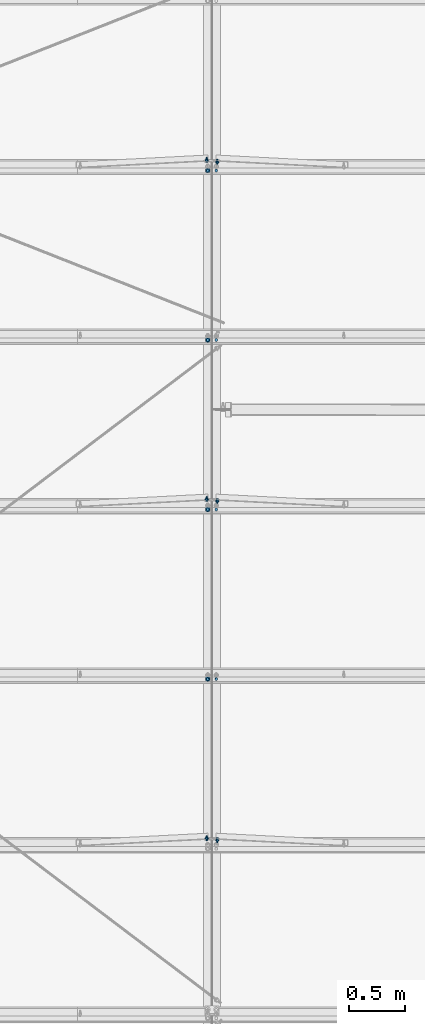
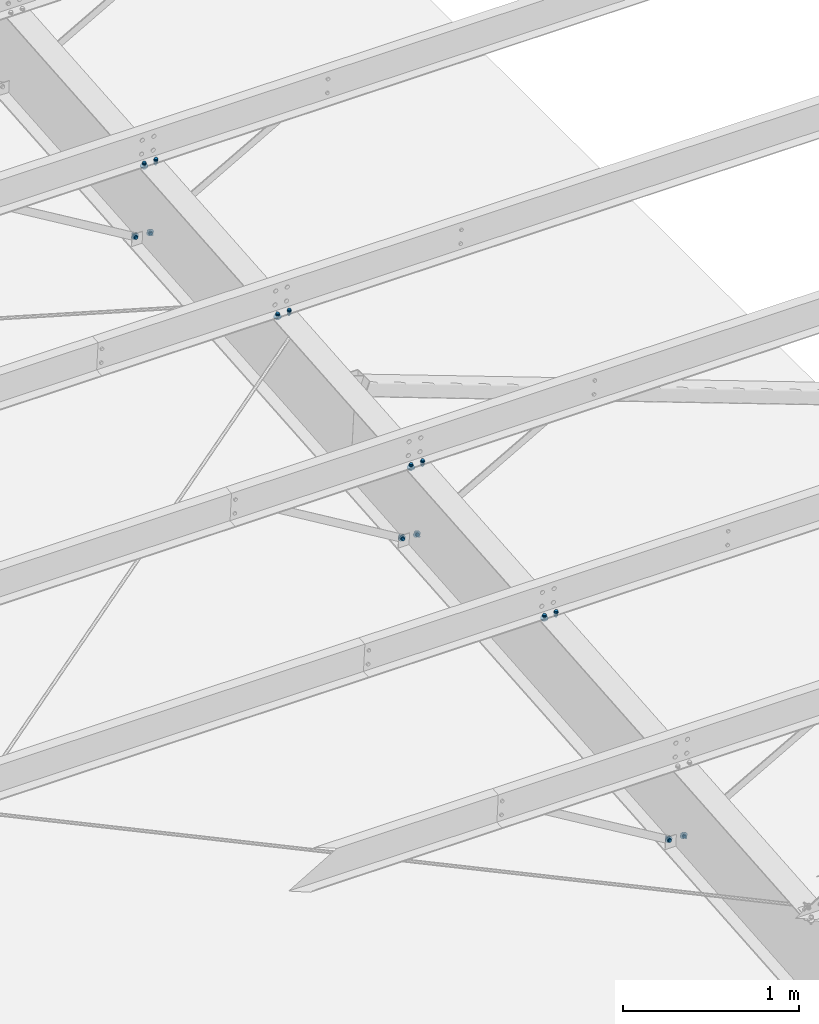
# One storey, part 170 of 185: 20 mechanical fasteners, 11 elements without a shape of their own.
"""IFC2X3 building model written with IfcOpenShell, lengths in millimetres."""

import ifcopenshell
import ifcopenshell.guid

model = None  # the IFC model being written
_history = None  # IfcOwnerHistory: only IFC2X3 demands one
_inside = {}  # id of a spatial element -> (the spatial element, [elements in it])
_under = {}  # id of a project, library or spatial element -> (it, [spatial elements below it])
_declared = {}  # id of a project -> (the project, [libraries it declares])
_typed = {}  # id of a type object -> (the type object, [elements of that type])
_made_of = {}  # id of a material, layer set ... -> (it, [elements and type objects made of it])


def new_model(schema):
    """Start an empty IFC model of exactly this schema.

    Asked for "IFC4X3", IfcOpenShell would pick the latest addendum, in which some entities
    have other attributes; the version numbers below select the first issue.
    IFC2X3 requires an IfcOwnerHistory on every rooted entity: one is made here for all.
    """
    global model, _history
    if schema == "IFC4X3":
        model = ifcopenshell.file(schema_version=(4, 3, 0, 0))
    else:
        model = ifcopenshell.file(schema=schema)
    _inside.clear()
    _under.clear()
    _declared.clear()
    _typed.clear()
    _made_of.clear()
    _history = None
    if model.schema == "IFC2X3":
        org = make("IfcOrganization", Name="unknown")
        user = make(
            "IfcPersonAndOrganization",
            ThePerson=make("IfcPerson", FamilyName="unknown"),
            TheOrganization=org,
        )
        app = make(
            "IfcApplication",
            ApplicationDeveloper=org,
            Version="unknown",
            ApplicationFullName="unknown",
            ApplicationIdentifier="unknown",
        )
        _history = make(
            "IfcOwnerHistory",
            OwningUser=user,
            OwningApplication=app,
            ChangeAction="ADDED",
            CreationDate=0,
        )
    return model


def make(cls, **values):
    """One entity of the class cls with the attributes given. An attribute that is None is left unset."""
    return model.create_entity(
        cls, **{name: value for name, value in values.items() if value is not None}
    )


def rooted(cls, **values):
    """An entity with a GlobalId (a new one), such as an element, a storey or a relation."""
    return make(cls, GlobalId=ifcopenshell.guid.new(), OwnerHistory=_history, **values)


def si_unit(unit_type, name, prefix=None):
    """IfcSIUnit, for example si_unit("LENGTHUNIT", "METRE", prefix="MILLI")."""
    return make("IfcSIUnit", UnitType=unit_type, Prefix=prefix, Name=name)


def assignment(units):
    """IfcUnitAssignment: the units of a project."""
    return None if units is None else make("IfcUnitAssignment", Units=units)


def point(xyz):
    """IfcCartesianPoint."""
    return None if xyz is None else make("IfcCartesianPoint", Coordinates=xyz)


def direction(xyz):
    """IfcDirection."""
    return None if xyz is None else make("IfcDirection", DirectionRatios=xyz)


def frame(location, z_axis=None, x_axis=None):
    """IfcAxis2Placement3D, a coordinate frame: its origin and axes. An axis left out is left unset."""
    return make(
        "IfcAxis2Placement3D",
        Location=point(location),
        Axis=direction(z_axis),
        RefDirection=direction(x_axis),
    )


def frame_2d(location, x_axis=None):
    """IfcAxis2Placement2D, a coordinate frame in the plane: its origin and x axis."""
    return make(
        "IfcAxis2Placement2D", Location=point(location), RefDirection=direction(x_axis)
    )


def origin_with_axes():
    """The frame at (0, 0, 0) with the z axis (0, 0, 1) and the x axis (1, 0, 0) written out."""
    return frame((0.0, 0.0, 0.0), z_axis=(0.0, 0.0, 1.0), x_axis=(1.0, 0.0, 0.0))


def origin_2d_with_axis():
    """The frame at (0, 0) in the plane with the x axis (1, 0) written out."""
    return frame_2d((0.0, 0.0), x_axis=(1.0, 0.0))


def place(relative_to, where):
    """IfcLocalPlacement: puts the frame where relative to a parent placement (None: the world)."""
    return make(
        "IfcLocalPlacement", PlacementRelTo=relative_to, RelativePlacement=where
    )


def context(
    kind, dimensions, precision=None, world=None, true_north=None, identifier=None
):
    """IfcGeometricRepresentationContext, for example the 3D "Model" context."""
    return make(
        "IfcGeometricRepresentationContext",
        ContextIdentifier=identifier,
        ContextType=kind,
        CoordinateSpaceDimension=dimensions,
        Precision=precision,
        WorldCoordinateSystem=world,
        TrueNorth=true_north,
    )


def subcontext(parent, identifier, kind, view, scale=None):
    """IfcGeometricRepresentationSubContext, for example "Body" below "Model"."""
    return make(
        "IfcGeometricRepresentationSubContext",
        ContextIdentifier=identifier,
        ContextType=kind,
        ParentContext=parent,
        TargetScale=scale,
        TargetView=view,
    )


def project(units=None, contexts=None):
    """IfcProject with its units and contexts."""
    return rooted(
        "IfcProject",
        Name="project",
        RepresentationContexts=contexts,
        UnitsInContext=assignment(units),
    )


def spatial(cls, under=None, at=None, **own):
    """A site, building, storey or space (cls), placed at a placement, below another one or the project."""
    s = rooted(cls, ObjectPlacement=at, **own)
    if under is not None:
        _under.setdefault(under.id(), (under, []))[1].append(s)
    return s


def polyline(points):
    """IfcPolyline through the points."""
    return make("IfcPolyline", Points=[point(p) for p in points])


def profile(cls, at=None, kind="AREA", **sizes):
    """A parametric profile (cls). Its sizes go by their IFC names, for example OverallWidth=200.0."""
    return make(cls, ProfileType=kind, Position=at, **sizes)


def circle(**sizes):
    """IfcCircleProfileDef."""
    return profile("IfcCircleProfileDef", **sizes)


def outline(outer, holes=None, kind="AREA"):
    """IfcArbitraryClosedProfileDef: a profile drawn as a closed curve; with holes, ...WithVoids."""
    if holes is None:
        return make("IfcArbitraryClosedProfileDef", ProfileType=kind, OuterCurve=outer)
    return make(
        "IfcArbitraryProfileDefWithVoids",
        ProfileType=kind,
        OuterCurve=outer,
        InnerCurves=holes,
    )


def extrude(swept, where, along, depth):
    """IfcExtrudedAreaSolid: the profile swept, set in the frame where, extruded along a direction by depth."""
    return make(
        "IfcExtrudedAreaSolid",
        SweptArea=swept,
        Position=where,
        ExtrudedDirection=direction(along),
        Depth=depth,
    )


def shape(context_of_items, identifier, shape_type, items):
    """IfcShapeRepresentation: the items that make up one representation, for example the "Body"."""
    return make(
        "IfcShapeRepresentation",
        ContextOfItems=context_of_items,
        RepresentationIdentifier=identifier,
        RepresentationType=shape_type,
        Items=items,
    )


def source(mapping_origin, context_of_items, identifier, shape_type, items):
    """IfcRepresentationMap: a shape defined once, which mapped items show again and again."""
    return make(
        "IfcRepresentationMap",
        MappingOrigin=mapping_origin,
        MappedRepresentation=shape(context_of_items, identifier, shape_type, items),
    )


def transform(
    local_origin,
    x_axis=None,
    y_axis=None,
    z_axis=None,
    scale=None,
    scale2=None,
    scale3=None,
    uniform=True,
):
    """IfcCartesianTransformationOperator3D, or its non-uniform kind. x_axis, y_axis, z_axis: its Axis1, 2, 3."""
    if uniform:
        return make(
            "IfcCartesianTransformationOperator3D",
            Axis1=direction(x_axis),
            Axis2=direction(y_axis),
            LocalOrigin=point(local_origin),
            Scale=scale,
            Axis3=direction(z_axis),
        )
    return make(
        "IfcCartesianTransformationOperator3DnonUniform",
        Axis1=direction(x_axis),
        Axis2=direction(y_axis),
        LocalOrigin=point(local_origin),
        Scale=scale,
        Axis3=direction(z_axis),
        Scale2=scale2,
        Scale3=scale3,
    )


def mapped(mapping_source, mapping_target):
    """IfcMappedItem: shows the shape of a source again, moved by a transform."""
    return make(
        "IfcMappedItem", MappingSource=mapping_source, MappingTarget=mapping_target
    )


def material(Name=None, Category=None):
    """IfcMaterial."""
    return make("IfcMaterial", Name=Name, Category=Category)


def made_of(thing, what):
    """Note that an element or type object is made of a material, layer set ...; save() writes the relation."""
    if what is not None:
        _made_of.setdefault(what.id(), (what, []))[1].append(thing)
    return thing


def type_object(cls, material=None, **own):
    """A type object (cls), such as IfcWallType, which elements share."""
    return made_of(rooted(cls, **own), material)


def element(
    cls,
    number,
    at=None,
    inside=None,
    cuts=None,
    type_object=None,
    material=None,
    context=None,
    identifier="Body",
    shape_type=None,
    held_by="IfcProductDefinitionShape",
    body=None,
    shapes=None,
    **own,
):
    """One element of the class cls, such as IfcWall. Its Tag is "e" and its number.

    at: its placement. inside: the storey or other place that contains it. cuts: it is an
    opening in that element (IfcRelVoidsElement). A single representation is given by context,
    identifier, shape_type and body (its items); several are given by shapes. held_by: the class
    of the entity that holds the representations. save() writes the other relations.
    """
    e = rooted(cls, Tag="e%d" % number, ObjectPlacement=at, **own)
    if body is not None:
        shapes = [shape(context, identifier, shape_type, body)]
    if shapes is not None:
        e.Representation = make(held_by, Representations=shapes)
    if inside is not None:
        _inside.setdefault(inside.id(), (inside, []))[1].append(e)
    if cuts is not None:
        rooted(
            "IfcRelVoidsElement", RelatingBuildingElement=cuts, RelatedOpeningElement=e
        )
    if type_object is not None:
        _typed.setdefault(type_object.id(), (type_object, []))[1].append(e)
    return made_of(e, material)


def aggregate(whole, parts):
    """IfcRelAggregates: a whole, such as a stair, and the parts it consists of."""
    return rooted("IfcRelAggregates", RelatingObject=whole, RelatedObjects=parts)


def save(model, path):
    """Write the relations noted so far, then the file.

    IfcRelAggregates (storeys below a building ...), IfcRelContainedInSpatialStructure (elements
    in a storey), IfcRelDefinesByType, IfcRelAssociatesMaterial and IfcRelDeclares: one each for
    every whole, place, type object, material and project.
    """
    for whole, parts in _under.values():
        aggregate(whole, parts)
    for where, things in _inside.values():
        rooted(
            "IfcRelContainedInSpatialStructure",
            RelatedElements=things,
            RelatingStructure=where,
        )
    for kind, things in _typed.values():
        rooted("IfcRelDefinesByType", RelatedObjects=things, RelatingType=kind)
    for what, things in _made_of.values():
        rooted("IfcRelAssociatesMaterial", RelatedObjects=things, RelatingMaterial=what)
    for by, libraries in _declared.values():
        rooted("IfcRelDeclares", RelatingContext=by, RelatedDefinitions=libraries)
    model.write(path)


model = new_model("IFC2X3")

# Units and contexts
model_context = context("Model", 3, precision=1e-05, world=origin_with_axes())
body_context = subcontext(model_context, "Body", "Model", "MODEL_VIEW")
ifc_project = project(units=[si_unit("LENGTHUNIT", "METRE", prefix="MILLI"), si_unit("AREAUNIT", "SQUARE_METRE"), si_unit("VOLUMEUNIT", "CUBIC_METRE"), si_unit("MASSUNIT", "GRAM", prefix="KILO"), si_unit("TIMEUNIT", "SECOND"), si_unit("PLANEANGLEUNIT", "RADIAN"), si_unit("SOLIDANGLEUNIT", "STERADIAN"), si_unit("THERMODYNAMICTEMPERATUREUNIT", "DEGREE_CELSIUS"), si_unit("LUMINOUSINTENSITYUNIT", "LUMEN")], contexts=[model_context])

# Site, building, storey
site_placement = place(None, origin_with_axes())
site = spatial("IfcSite", under=ifc_project, at=site_placement, Name="Undefined", CompositionType="ELEMENT")
building_placement = place(site_placement, origin_with_axes())
building = spatial("IfcBuilding", under=site, at=building_placement, Name="Undefined", CompositionType="ELEMENT")
storey_placement = place(building_placement, origin_with_axes())
storey = spatial("IfcBuildingStorey", under=building, at=storey_placement, Name="Undefined", CompositionType="ELEMENT", Elevation=0.0)

# Assembly, mechanical fastener
assembly_1_placement = place(storey_placement, origin_with_axes())
assembly_1 = element("IfcElementAssembly", 1, at=assembly_1_placement, inside=storey, Name="Steel Assembly", AssemblyPlace="NOTDEFINED", PredefinedType="RIGID_FRAME")
ifc_material_1 = material(Name="Undefined")
discrete_accessory_type = type_object("IfcDiscreteAccessoryType", Name="Bolt assembly")
shared_shape_1 = source(origin_with_axes(), body_context, "Body", "SweptSolid", [
    extrude(circle(Radius=7.14374971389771, at=origin_2d_with_axis()), frame((0.0, -1.59000001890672, 0.0), z_axis=(0.0, 1.0, 0.0), x_axis=(1.0, 0.0, 0.0)), (0.0, 0.0, 1.0), 1.7),
    extrude(outline(polyline([(10.9985221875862, 0.0), (5.4992610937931, 9.52499961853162), (-5.4992610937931, 9.52499961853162), (-10.9985221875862, 0.0), (-5.4992610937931, -9.52499961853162), (5.4992610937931, -9.52499961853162), (10.9985221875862, 0.0)])), frame((0.0, -15.0837496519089, 0.0), z_axis=(0.0, 1.0, 0.0), x_axis=(1.0, 0.0, 0.0)), (0.0, 0.0, 1.0), 9.5),
    extrude(circle(Radius=6.34999990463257, at=origin_2d_with_axis()), frame((0.0, -5.5587500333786, 0.0), z_axis=(0.0, 1.0, 0.0), x_axis=(1.0, 0.0, 0.0)), (0.0, 0.0, 1.0), 38.1),
    extrude(circle(Radius=13.4937496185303, at=origin_2d_with_axis()), frame((0.0, -5.5587500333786, 0.0), z_axis=(0.0, 1.0, 0.0), x_axis=(1.0, 0.0, 0.0)), (0.0, 0.0, 1.0), 4.0),
    extrude(circle(Radius=22.2250003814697, at=origin_2d_with_axis()), frame((0.0, 0.0, 0.0), z_axis=(0.0, 1.0, 0.0), x_axis=(1.0, 0.0, 0.0)), (0.0, 0.0, 1.0), 7.9),
    extrude(outline(polyline([(12.8316099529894, 0.0), (6.4158049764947, 11.1125001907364), (-6.4158049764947, 11.1125001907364), (-12.8316099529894, 0.0), (-6.4158049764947, -11.1125001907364), (6.4158049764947, -11.1125001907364), (12.8316099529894, 0.0)])), frame((0.0, 7.93750000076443, 0.0), z_axis=(0.0, 1.0, 0.0), x_axis=(1.0, 0.0, 0.0)), (0.0, 0.0, 1.0), 12.3),
])
mechanical_fastener_1_placement = place(assembly_1_placement, frame((37766.0060520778, 14242.6233903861, 6520.35628002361), z_axis=(0.530152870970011, 0.0704144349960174, -0.844973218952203), x_axis=(0.847902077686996, -0.044026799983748, 0.528321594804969)))
mechanical_fastener_1 = element("IfcMechanicalFastener", 2, at=mechanical_fastener_1_placement, type_object=discrete_accessory_type, material=ifc_material_1, Name="Bolt assembly", NominalDiameter=12.6999998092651, NominalLength=38.0999984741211, context=body_context, shape_type="MappedRepresentation", body=[
    mapped(shared_shape_1, transform((0.0, 0.0, 0.0))),
])
aggregate(assembly_1, [mechanical_fastener_1])

assembly_2_placement = place(storey_placement, origin_with_axes())
assembly_2 = element("IfcElementAssembly", 3, at=assembly_2_placement, inside=storey, Name="Steel Assembly", AssemblyPlace="NOTDEFINED", PredefinedType="RIGID_FRAME")
mechanical_fastener_2_placement = place(assembly_2_placement, frame((37766.006052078, 11205.1519192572, 6267.23365743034), z_axis=(0.530152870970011, 0.0704144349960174, -0.844973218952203), x_axis=(0.847902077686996, -0.044026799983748, 0.528321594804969)))
mechanical_fastener_2 = element("IfcMechanicalFastener", 4, at=mechanical_fastener_2_placement, type_object=discrete_accessory_type, material=ifc_material_1, Name="Bolt assembly", NominalDiameter=12.6999998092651, NominalLength=38.0999984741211, context=body_context, shape_type="MappedRepresentation", body=[
    mapped(shared_shape_1, transform((0.0, 0.0, 0.0))),
])
aggregate(assembly_2, [mechanical_fastener_2])

assembly_3_placement = place(storey_placement, origin_with_axes())
assembly_3 = element("IfcElementAssembly", 5, at=assembly_3_placement, inside=storey, Name="Steel Assembly", AssemblyPlace="NOTDEFINED", PredefinedType="RIGID_FRAME")
mechanical_fastener_3_placement = place(assembly_3_placement, frame((37766.0060520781, 8167.68044812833, 6014.11103483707), z_axis=(0.530152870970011, 0.0704144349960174, -0.844973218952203), x_axis=(0.847902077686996, -0.044026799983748, 0.528321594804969)))
mechanical_fastener_3 = element("IfcMechanicalFastener", 6, at=mechanical_fastener_3_placement, type_object=discrete_accessory_type, material=ifc_material_1, Name="Bolt assembly", NominalDiameter=12.6999998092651, NominalLength=38.0999984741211, context=body_context, shape_type="MappedRepresentation", body=[
    mapped(shared_shape_1, transform((0.0, 0.0, 0.0))),
])
aggregate(assembly_3, [mechanical_fastener_3])

assembly_4_placement = place(storey_placement, origin_with_axes())
assembly_4 = element("IfcElementAssembly", 7, at=assembly_4_placement, inside=storey, Name="Steel Assembly", AssemblyPlace="NOTDEFINED", PredefinedType="RIGID_FRAME")
shared_shape_2 = source(origin_with_axes(), body_context, "Body", "SweptSolid", [
    extrude(circle(Radius=7.14374971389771, at=origin_2d_with_axis()), frame((0.0, 0.0, 0.0), z_axis=(0.0, 1.0, 0.0), x_axis=(1.0, 0.0, 0.0)), (0.0, 0.0, 1.0), 1.7),
    extrude(outline(polyline([(10.9985221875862, 0.0), (5.4992610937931, 9.52499961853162), (-5.4992610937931, 9.52499961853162), (-10.9985221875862, 0.0), (-5.4992610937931, -9.52499961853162), (5.4992610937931, -9.52499961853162), (10.9985221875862, 0.0)])), frame((0.0, -13.4937496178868, 0.0), z_axis=(0.0, 1.0, 0.0), x_axis=(1.0, 0.0, 0.0)), (0.0, 0.0, 1.0), 9.5),
    extrude(circle(Radius=6.34999990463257, at=origin_2d_with_axis()), frame((0.0, -3.96874999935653, 0.0), z_axis=(0.0, 1.0, 0.0), x_axis=(1.0, 0.0, 0.0)), (0.0, 0.0, 1.0), 38.1),
    extrude(circle(Radius=13.4937496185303, at=origin_2d_with_axis()), frame((0.0, -3.96874999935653, 0.0), z_axis=(0.0, 1.0, 0.0), x_axis=(1.0, 0.0, 0.0)), (0.0, 0.0, 1.0), 4.0),
    extrude(circle(Radius=22.2250003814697, at=origin_2d_with_axis()), frame((0.0, 1.5900000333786, 0.0), z_axis=(0.0, 1.0, 0.0), x_axis=(1.0, 0.0, 0.0)), (0.0, 0.0, 1.0), 7.9),
    extrude(outline(polyline([(12.8316099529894, 0.0), (6.4158049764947, 11.1125001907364), (-6.4158049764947, 11.1125001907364), (-12.8316099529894, 0.0), (-6.4158049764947, -11.1125001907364), (6.4158049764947, -11.1125001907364), (12.8316099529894, 0.0)])), frame((0.0, 9.5275000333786, 0.0), z_axis=(0.0, 1.0, 0.0), x_axis=(1.0, 0.0, 0.0)), (0.0, 0.0, 1.0), 12.3),
])
mechanical_fastener_4_placement = place(assembly_4_placement, frame((37671.9939479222, 14242.6233903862, 6520.35628002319), z_axis=(-0.530152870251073, 0.070414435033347, -0.844973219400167), x_axis=(-0.847902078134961, -0.0440268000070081, 0.528321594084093)))
mechanical_fastener_4 = element("IfcMechanicalFastener", 8, at=mechanical_fastener_4_placement, type_object=discrete_accessory_type, material=ifc_material_1, Name="Bolt assembly", NominalDiameter=12.6999998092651, NominalLength=38.0999984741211, context=body_context, shape_type="MappedRepresentation", body=[
    mapped(shared_shape_2, transform((0.0, 0.0, 0.0))),
])
aggregate(assembly_4, [mechanical_fastener_4])

assembly_5_placement = place(storey_placement, origin_with_axes())
assembly_5 = element("IfcElementAssembly", 9, at=assembly_5_placement, inside=storey, Name="Steel Assembly", AssemblyPlace="NOTDEFINED", PredefinedType="RIGID_FRAME")
mechanical_fastener_5_placement = place(assembly_5_placement, frame((37671.993947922, 11205.1519192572, 6267.23365742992), z_axis=(-0.530152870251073, 0.070414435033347, -0.844973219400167), x_axis=(-0.847902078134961, -0.0440268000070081, 0.528321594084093)))
mechanical_fastener_5 = element("IfcMechanicalFastener", 10, at=mechanical_fastener_5_placement, type_object=discrete_accessory_type, material=ifc_material_1, Name="Bolt assembly", NominalDiameter=12.6999998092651, NominalLength=38.0999984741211, context=body_context, shape_type="MappedRepresentation", body=[
    mapped(shared_shape_2, transform((0.0, 0.0, 0.0))),
])
aggregate(assembly_5, [mechanical_fastener_5])

assembly_6_placement = place(storey_placement, origin_with_axes())
assembly_6 = element("IfcElementAssembly", 11, at=assembly_6_placement, inside=storey, Name="Steel Assembly", AssemblyPlace="NOTDEFINED", PredefinedType="RIGID_FRAME")
mechanical_fastener_6_placement = place(assembly_6_placement, frame((37671.9939479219, 8167.68044812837, 6014.11103483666), z_axis=(-0.530152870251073, 0.070414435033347, -0.844973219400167), x_axis=(-0.847902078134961, -0.0440268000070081, 0.528321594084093)))
mechanical_fastener_6 = element("IfcMechanicalFastener", 12, at=mechanical_fastener_6_placement, type_object=discrete_accessory_type, material=ifc_material_1, Name="Bolt assembly", NominalDiameter=12.6999998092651, NominalLength=38.0999984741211, context=body_context, shape_type="MappedRepresentation", body=[
    mapped(shared_shape_2, transform((0.0, 0.0, 0.0))),
])
aggregate(assembly_6, [mechanical_fastener_6])

# Assembly, mechanical fasteners
assembly_7_placement = place(storey_placement, origin_with_axes())
assembly_7 = element("IfcElementAssembly", 13, at=assembly_7_placement, inside=storey, Name="Steel Assembly", AssemblyPlace="NOTDEFINED", PredefinedType="RIGID_FRAME")
ifc_material_2 = material(Name="7990")
shared_shape_3 = source(origin_with_axes(), body_context, "Body", "SweptSolid", [
    extrude(circle(Radius=7.14374971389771, at=origin_2d_with_axis()), frame((0.0, -3.41600000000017, 0.0), z_axis=(0.0, 1.0, 0.0), x_axis=(1.0, 0.0, 0.0)), (0.0, 0.0, 1.0), 3.5),
    extrude(circle(Radius=11.4299998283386, at=origin_2d_with_axis()), frame((0.0, 0.0, 0.0), z_axis=(0.0, 1.0, 0.0), x_axis=(1.0, 0.0, 0.0)), (0.0, 0.0, 1.0), 4.2),
    extrude(outline(polyline([(12.171698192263, 0.0), (6.08584909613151, 10.5409998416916), (-6.08584909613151, 10.5409998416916), (-12.171698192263, 0.0), (-6.08584909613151, -10.5409998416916), (6.08584909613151, -10.5409998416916), (12.171698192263, 0.0)])), frame((0.0, 4.1909999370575, 0.0), z_axis=(0.0, 1.0, 0.0), x_axis=(1.0, 0.0, 0.0)), (0.0, 0.0, 1.0), 8.4),
])
mechanical_fastener_7_placement = place(assembly_7_placement, frame((37672.84185, 14242.6674171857, 6519.82795842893), z_axis=(0.921635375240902, 0.0322263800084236, -0.386716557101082), x_axis=(-0.388056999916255, 0.0765376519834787, -0.9184518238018)))
mechanical_fastener_7 = element("IfcMechanicalFastener", 14, at=mechanical_fastener_7_placement, type_object=discrete_accessory_type, material=ifc_material_2, Name="Bolt assembly", NominalDiameter=12.6999998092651, NominalLength=38.0999984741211, context=body_context, shape_type="MappedRepresentation", body=[
    mapped(shared_shape_3, transform((0.0, 0.0, 0.0))),
])
mechanical_fastener_8_placement = place(assembly_7_placement, frame((37672.84185, 11205.1959460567, 6266.70533583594), z_axis=(0.921635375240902, 0.0322263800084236, -0.386716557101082), x_axis=(-0.388056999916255, 0.0765376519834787, -0.9184518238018)))
mechanical_fastener_8 = element("IfcMechanicalFastener", 15, at=mechanical_fastener_8_placement, type_object=discrete_accessory_type, material=ifc_material_2, Name="Bolt assembly", NominalDiameter=12.6999998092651, NominalLength=38.0999984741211, context=body_context, shape_type="MappedRepresentation", body=[
    mapped(shared_shape_3, transform((0.0, 0.0, 0.0))),
])
mechanical_fastener_9_placement = place(assembly_7_placement, frame((37672.84185, 8167.72447492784, 6013.58271324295), z_axis=(0.921635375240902, 0.0322263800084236, -0.386716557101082), x_axis=(-0.388056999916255, 0.0765376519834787, -0.9184518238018)))
mechanical_fastener_9 = element("IfcMechanicalFastener", 16, at=mechanical_fastener_9_placement, type_object=discrete_accessory_type, material=ifc_material_2, Name="Bolt assembly", NominalDiameter=12.6999998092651, NominalLength=38.0999984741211, context=body_context, shape_type="MappedRepresentation", body=[
    mapped(shared_shape_3, transform((0.0, 0.0, 0.0))),
])
shared_shape_4 = source(origin_with_axes(), body_context, "Body", "SweptSolid", [
    extrude(circle(Radius=7.14374971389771, at=origin_2d_with_axis()), frame((0.0, 0.0, 0.0), z_axis=(0.0, 1.0, 0.0), x_axis=(1.0, 0.0, 0.0)), (0.0, 0.0, 1.0), 3.5),
    extrude(circle(Radius=11.4299998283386, at=origin_2d_with_axis()), frame((0.0, 3.41600000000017, 0.0), z_axis=(0.0, 1.0, 0.0), x_axis=(1.0, 0.0, 0.0)), (0.0, 0.0, 1.0), 4.2),
    extrude(outline(polyline([(12.171698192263, 0.0), (6.08584909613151, 10.5409998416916), (-6.08584909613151, 10.5409998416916), (-12.171698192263, 0.0), (-6.08584909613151, -10.5409998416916), (6.08584909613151, -10.5409998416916), (12.171698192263, 0.0)])), frame((0.0, 7.60699993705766, 0.0), z_axis=(0.0, 1.0, 0.0), x_axis=(1.0, 0.0, 0.0)), (0.0, 0.0, 1.0), 8.4),
])
mechanical_fastener_10_placement = place(assembly_7_placement, frame((37765.15815, 14242.6674171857, 6519.82795842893), z_axis=(-0.921635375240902, 0.0322263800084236, -0.386716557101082), x_axis=(0.388056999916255, 0.0765376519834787, -0.9184518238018)))
mechanical_fastener_10 = element("IfcMechanicalFastener", 17, at=mechanical_fastener_10_placement, type_object=discrete_accessory_type, material=ifc_material_2, Name="Bolt assembly", NominalDiameter=12.6999998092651, NominalLength=38.0999984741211, context=body_context, shape_type="MappedRepresentation", body=[
    mapped(shared_shape_4, transform((0.0, 0.0, 0.0))),
])
mechanical_fastener_11_placement = place(assembly_7_placement, frame((37765.15815, 11205.1959460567, 6266.70533583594), z_axis=(-0.921635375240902, 0.0322263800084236, -0.386716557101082), x_axis=(0.388056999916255, 0.0765376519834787, -0.9184518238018)))
mechanical_fastener_11 = element("IfcMechanicalFastener", 18, at=mechanical_fastener_11_placement, type_object=discrete_accessory_type, material=ifc_material_2, Name="Bolt assembly", NominalDiameter=12.6999998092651, NominalLength=38.0999984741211, context=body_context, shape_type="MappedRepresentation", body=[
    mapped(shared_shape_4, transform((0.0, 0.0, 0.0))),
])
mechanical_fastener_12_placement = place(assembly_7_placement, frame((37765.15815, 8167.72447492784, 6013.58271324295), z_axis=(-0.921635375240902, 0.0322263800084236, -0.386716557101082), x_axis=(0.388056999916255, 0.0765376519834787, -0.9184518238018)))
mechanical_fastener_12 = element("IfcMechanicalFastener", 19, at=mechanical_fastener_12_placement, type_object=discrete_accessory_type, material=ifc_material_2, Name="Bolt assembly", NominalDiameter=12.6999998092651, NominalLength=38.0999984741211, context=body_context, shape_type="MappedRepresentation", body=[
    mapped(shared_shape_4, transform((0.0, 0.0, 0.0))),
])
aggregate(assembly_7, [mechanical_fastener_10, mechanical_fastener_7, mechanical_fastener_11, mechanical_fastener_8, mechanical_fastener_12, mechanical_fastener_9])

# Assembly, mechanical fastener
assembly_8_placement = place(storey_placement, origin_with_axes())
assembly_8 = element("IfcElementAssembly", 20, at=assembly_8_placement, inside=storey, Name="Steel Assembly", AssemblyPlace="NOTDEFINED", PredefinedType="RIGID_FRAME")
shared_shape_5 = source(origin_with_axes(), body_context, "Body", "SweptSolid", [
    extrude(circle(Radius=7.14374971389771, at=origin_2d_with_axis()), frame((0.0, -0.0238014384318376, 0.0), z_axis=(0.0, 1.0, 0.0), x_axis=(1.0, 0.0, 0.0)), (0.0, 0.0, 1.0), 8.0),
    extrude(circle(Radius=7.14374971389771, at=origin_2d_with_axis()), frame((0.0, -3.08000006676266, 0.0), z_axis=(0.0, 1.0, 0.0), x_axis=(1.0, 0.0, 0.0)), (0.0, 0.0, 1.0), 3.2),
    extrude(circle(Radius=7.14374971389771, at=origin_2d_with_axis()), frame((0.0, -3.18000030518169, 0.0), z_axis=(0.0, 1.0, 0.0), x_axis=(1.0, 0.0, 0.0)), (0.0, 0.0, 1.0), 3.2),
    extrude(outline(polyline([(10.9985221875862, 0.0), (5.4992610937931, 9.52499961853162), (-5.4992610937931, 9.52499961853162), (-10.9985221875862, 0.0), (-5.4992610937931, -9.52499961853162), (5.4992610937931, -9.52499961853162), (10.9985221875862, 0.0)])), frame((0.0, -16.6737496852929, 0.0), z_axis=(0.0, 1.0, 0.0), x_axis=(1.0, 0.0, 0.0)), (0.0, 0.0, 1.0), 9.5),
    extrude(circle(Radius=6.34999990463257, at=origin_2d_with_axis()), frame((0.0, -7.14875006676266, 0.0), z_axis=(0.0, 1.0, 0.0), x_axis=(1.0, 0.0, 0.0)), (0.0, 0.0, 1.0), 38.1),
    extrude(circle(Radius=13.4937496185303, at=origin_2d_with_axis()), frame((0.0, -7.14875006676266, 0.0), z_axis=(0.0, 1.0, 0.0), x_axis=(1.0, 0.0, 0.0)), (0.0, 0.0, 1.0), 4.0),
    extrude(circle(Radius=22.2250003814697, at=origin_2d_with_axis()), frame((0.0, 7.95019856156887, 0.0), z_axis=(0.0, 1.0, 0.0), x_axis=(1.0, 0.0, 0.0)), (0.0, 0.0, 1.0), 7.9),
    extrude(outline(polyline([(12.8316099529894, 0.0), (6.4158049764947, 11.1125001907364), (-6.4158049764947, 11.1125001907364), (-12.8316099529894, 0.0), (-6.4158049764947, -11.1125001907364), (6.4158049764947, -11.1125001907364), (12.8316099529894, 0.0)])), frame((0.0, 15.8876985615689, 0.0), z_axis=(0.0, 1.0, 0.0), x_axis=(1.0, 0.0, 0.0)), (0.0, 0.0, 1.0), 12.3),
])
mechanical_fastener_13_placement = place(assembly_8_placement, frame((37680.9, 9602.21678319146, 6692.28039869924), z_axis=(1.0, 0.0, 0.0), x_axis=(0.0, -0.996545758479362, -0.0830454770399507)))
mechanical_fastener_13 = element("IfcMechanicalFastener", 21, at=mechanical_fastener_13_placement, type_object=discrete_accessory_type, material=ifc_material_1, Name="Bolt assembly", NominalDiameter=12.6999998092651, NominalLength=38.0999984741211, context=body_context, shape_type="MappedRepresentation", body=[
    mapped(shared_shape_5, transform((0.0, 0.0, 0.0))),
])

assembly_9_placement = place(storey_placement, origin_with_axes())
assembly_9 = element("IfcElementAssembly", 22, at=assembly_9_placement, inside=storey, Name="Steel Assembly", AssemblyPlace="NOTDEFINED", PredefinedType="RIGID_FRAME")
mechanical_fastener_14_placement = place(assembly_9_placement, frame((37680.9, 11120.9525187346, 6818.8417102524), z_axis=(1.0, 0.0, 0.0), x_axis=(0.0, -0.996545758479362, -0.0830454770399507)))
mechanical_fastener_14 = element("IfcMechanicalFastener", 23, at=mechanical_fastener_14_placement, type_object=discrete_accessory_type, material=ifc_material_1, Name="Bolt assembly", NominalDiameter=12.6999998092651, NominalLength=38.0999984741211, context=body_context, shape_type="MappedRepresentation", body=[
    mapped(shared_shape_5, transform((0.0, 0.0, 0.0))),
])

assembly_10_placement = place(storey_placement, origin_with_axes())
assembly_10 = element("IfcElementAssembly", 24, at=assembly_10_placement, inside=storey, Name="Steel Assembly", AssemblyPlace="NOTDEFINED", PredefinedType="RIGID_FRAME")
mechanical_fastener_15_placement = place(assembly_10_placement, frame((37680.9, 12639.6882542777, 6945.40302180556), z_axis=(1.0, 0.0, 0.0), x_axis=(0.0, -0.996545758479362, -0.0830454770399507)))
mechanical_fastener_15 = element("IfcMechanicalFastener", 25, at=mechanical_fastener_15_placement, type_object=discrete_accessory_type, material=ifc_material_1, Name="Bolt assembly", NominalDiameter=12.6999998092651, NominalLength=38.0999984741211, context=body_context, shape_type="MappedRepresentation", body=[
    mapped(shared_shape_5, transform((0.0, 0.0, 0.0))),
])

assembly_11_placement = place(storey_placement, origin_with_axes())
assembly_11 = element("IfcElementAssembly", 26, at=assembly_11_placement, inside=storey, Name="Steel Assembly", AssemblyPlace="NOTDEFINED", PredefinedType="RIGID_FRAME")
mechanical_fastener_16_placement = place(assembly_11_placement, frame((37680.9, 14158.4239898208, 7071.96433335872), z_axis=(1.0, 0.0, 0.0), x_axis=(0.0, -0.996545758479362, -0.0830454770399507)))
mechanical_fastener_16 = element("IfcMechanicalFastener", 27, at=mechanical_fastener_16_placement, type_object=discrete_accessory_type, material=ifc_material_1, Name="Bolt assembly", NominalDiameter=12.6999998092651, NominalLength=38.0999984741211, context=body_context, shape_type="MappedRepresentation", body=[
    mapped(shared_shape_5, transform((0.0, 0.0, 0.0))),
])

# Mechanical fastener
shared_shape_6 = source(origin_with_axes(), body_context, "Body", "SweptSolid", [
    extrude(circle(Radius=7.14374971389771, at=origin_2d_with_axis()), frame((0.0, -0.0238014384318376, 0.0), z_axis=(0.0, 1.0, 0.0), x_axis=(1.0, 0.0, 0.0)), (0.0, 0.0, 1.0), 8.0),
    extrude(circle(Radius=7.14374971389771, at=origin_2d_with_axis()), frame((0.0, -3.08000006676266, 0.0), z_axis=(0.0, 1.0, 0.0), x_axis=(1.0, 0.0, 0.0)), (0.0, 0.0, 1.0), 3.2),
    extrude(circle(Radius=7.14374971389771, at=origin_2d_with_axis()), frame((0.0, -3.18000030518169, 0.0), z_axis=(0.0, 1.0, 0.0), x_axis=(1.0, 0.0, 0.0)), (0.0, 0.0, 1.0), 3.2),
    extrude(outline(polyline([(10.9985221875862, 0.0), (5.4992610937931, 9.52499961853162), (-5.4992610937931, 9.52499961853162), (-10.9985221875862, 0.0), (-5.4992610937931, -9.52499961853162), (5.4992610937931, -9.52499961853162), (10.9985221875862, 0.0)])), frame((0.0, -16.6737496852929, 0.0), z_axis=(0.0, 1.0, 0.0), x_axis=(1.0, 0.0, 0.0)), (0.0, 0.0, 1.0), 9.5),
    extrude(circle(Radius=6.34999990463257, at=origin_2d_with_axis()), frame((0.0, -7.14875006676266, 0.0), z_axis=(0.0, 1.0, 0.0), x_axis=(1.0, 0.0, 0.0)), (0.0, 0.0, 1.0), 38.1),
    extrude(circle(Radius=13.4937496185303, at=origin_2d_with_axis()), frame((0.0, -7.14875006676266, 0.0), z_axis=(0.0, 1.0, 0.0), x_axis=(1.0, 0.0, 0.0)), (0.0, 0.0, 1.0), 4.0),
    extrude(outline(polyline([(12.8316099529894, 0.0), (6.4158049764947, 11.1125001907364), (-6.4158049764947, 11.1125001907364), (-12.8316099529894, 0.0), (-6.4158049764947, -11.1125001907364), (6.4158049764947, -11.1125001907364), (12.8316099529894, 0.0)])), frame((0.0, 7.95019856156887, 0.0), z_axis=(0.0, 1.0, 0.0), x_axis=(1.0, 0.0, 0.0)), (0.0, 0.0, 1.0), 12.3),
])
mechanical_fastener_17_placement = place(assembly_8_placement, frame((37757.1, 9602.21678319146, 6692.28039869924), z_axis=(1.0, 0.0, 0.0), x_axis=(0.0, -0.996545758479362, -0.0830454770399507)))
mechanical_fastener_17 = element("IfcMechanicalFastener", 28, at=mechanical_fastener_17_placement, type_object=discrete_accessory_type, material=ifc_material_1, Name="Bolt assembly", NominalDiameter=12.6999998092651, NominalLength=38.0999984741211, context=body_context, shape_type="MappedRepresentation", body=[
    mapped(shared_shape_6, transform((0.0, 0.0, 0.0))),
])

aggregate(assembly_8, [mechanical_fastener_13, mechanical_fastener_17])

mechanical_fastener_18_placement = place(assembly_9_placement, frame((37757.1, 11120.9525187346, 6818.8417102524), z_axis=(1.0, 0.0, 0.0), x_axis=(0.0, -0.996545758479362, -0.0830454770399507)))
mechanical_fastener_18 = element("IfcMechanicalFastener", 29, at=mechanical_fastener_18_placement, type_object=discrete_accessory_type, material=ifc_material_1, Name="Bolt assembly", NominalDiameter=12.6999998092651, NominalLength=38.0999984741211, context=body_context, shape_type="MappedRepresentation", body=[
    mapped(shared_shape_6, transform((0.0, 0.0, 0.0))),
])

aggregate(assembly_9, [mechanical_fastener_14, mechanical_fastener_18])

mechanical_fastener_19_placement = place(assembly_10_placement, frame((37757.1, 12639.6882542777, 6945.40302180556), z_axis=(1.0, 0.0, 0.0), x_axis=(0.0, -0.996545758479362, -0.0830454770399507)))
mechanical_fastener_19 = element("IfcMechanicalFastener", 30, at=mechanical_fastener_19_placement, type_object=discrete_accessory_type, material=ifc_material_1, Name="Bolt assembly", NominalDiameter=12.6999998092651, NominalLength=38.0999984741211, context=body_context, shape_type="MappedRepresentation", body=[
    mapped(shared_shape_6, transform((0.0, 0.0, 0.0))),
])

aggregate(assembly_10, [mechanical_fastener_15, mechanical_fastener_19])

mechanical_fastener_20_placement = place(assembly_11_placement, frame((37757.1, 14158.4239898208, 7071.96433335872), z_axis=(1.0, 0.0, 0.0), x_axis=(0.0, -0.996545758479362, -0.0830454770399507)))
mechanical_fastener_20 = element("IfcMechanicalFastener", 31, at=mechanical_fastener_20_placement, type_object=discrete_accessory_type, material=ifc_material_1, Name="Bolt assembly", NominalDiameter=12.6999998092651, NominalLength=38.0999984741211, context=body_context, shape_type="MappedRepresentation", body=[
    mapped(shared_shape_6, transform((0.0, 0.0, 0.0))),
])

aggregate(assembly_11, [mechanical_fastener_16, mechanical_fastener_20])

save(model, "model.ifc")
